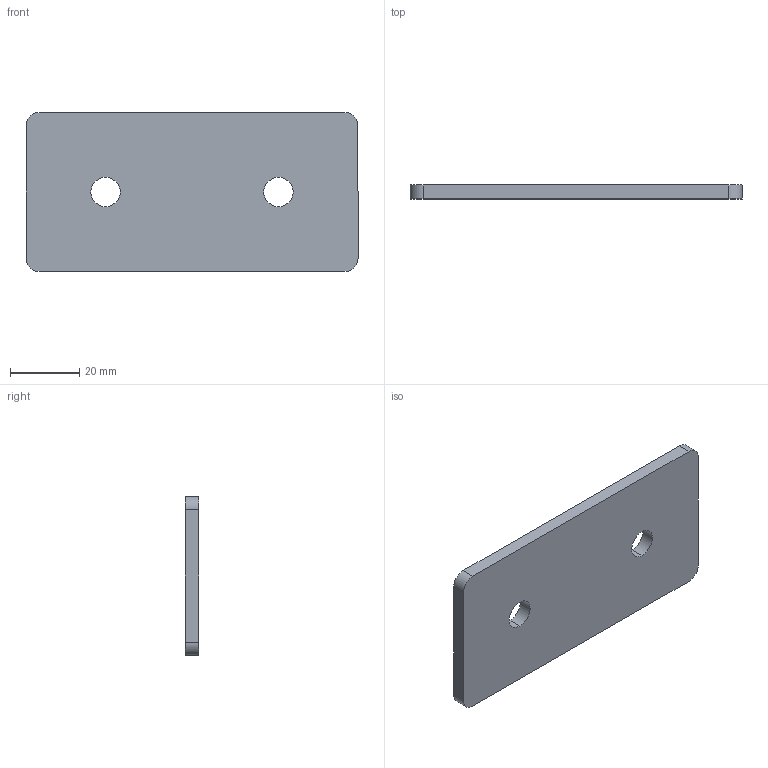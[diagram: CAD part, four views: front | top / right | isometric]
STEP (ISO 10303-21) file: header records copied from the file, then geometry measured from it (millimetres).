
FILE_DESCRIPTION (( 'STEP AP203' ), '1' );
FILE_NAME ('Ï-2-50.STEP', '2017-03-22T06:38:32', ( 'RosInstal-MKM' ), ( '' ), 'SwSTEP 2.0', 'SolidWorks 2014', '' );
FILE_SCHEMA (( 'CONFIG_CONTROL_DESIGN' ));
Length unit declared in the file: millimetre
Products named in the file (1): ﾏ-2-50
Bounding box: 96 x 4 x 46 mm (x, y, z)
Volume: 17160.9 mm3; surface area: 9904.1 mm2
Topology: 1 solids, 1 shells, 14 faces, 36 edges, 24 vertices
Faces by surface type: cylinder 8, plane 6
Entity records: 521 total; most frequent: DIRECTION 82, CARTESIAN_POINT 75, ORIENTED_EDGE 72, EDGE_CURVE 36, AXIS2_PLACEMENT_3D 31, VERTEX_POINT 24, LINE 20, VECTOR 20
